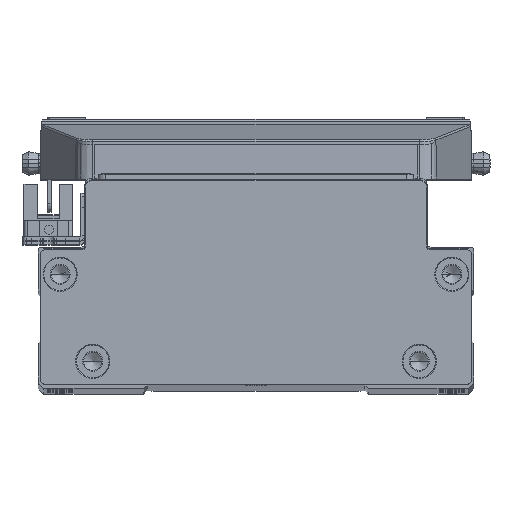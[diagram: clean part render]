
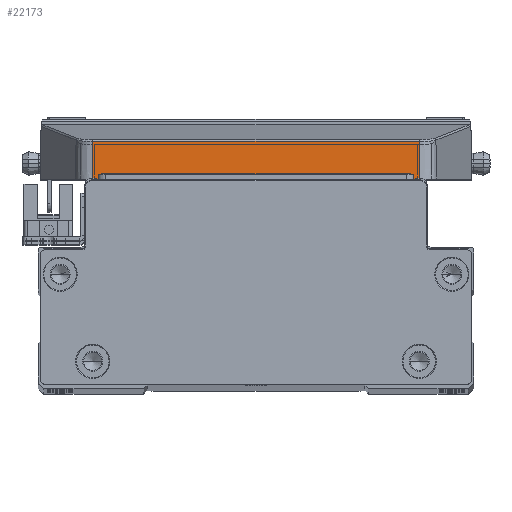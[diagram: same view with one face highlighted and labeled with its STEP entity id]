
A CAD part, top view. The second image highlights one B-rep face of the part: STEP entity #22173.
In plain terms, the highlighted planar face has unit normal (0, 0.018, 1) as drawn and (0, 0.017, -1) by its records, which use the part's own axes.
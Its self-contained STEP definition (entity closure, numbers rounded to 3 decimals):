
#2160 = VECTOR ( 'NONE', #51592, 1000. ) ;
#2859 = CARTESIAN_POINT ( 'NONE',  ( 174.19, 348.838, 552.719 ) ) ;
#4300 = LINE ( 'NONE', #13055, #6832 ) ;
#4524 = VERTEX_POINT ( 'NONE', #28328 ) ;
#6278 = CARTESIAN_POINT ( 'NONE',  ( 191.19, 350.338, 552.745 ) ) ;
#6832 = VECTOR ( 'NONE', #21248, 1000. ) ;
#8236 = CARTESIAN_POINT ( 'NONE',  ( 188.745, 348.838, 552.719 ) ) ;
#9868 = DIRECTION ( 'NONE',  ( 0., -1., -0.017 ) ) ;
#10419 = ORIENTED_EDGE ( 'NONE', *, *, #34576, .F. ) ;
#11382 = LINE ( 'NONE', #17095, #12694 ) ;
#12694 = VECTOR ( 'NONE', #29239, 1000. ) ;
#13024 = CARTESIAN_POINT ( 'NONE',  ( 174.19, 348.838, 552.719 ) ) ;
#13055 = CARTESIAN_POINT ( 'NONE',  ( 278.636, -499000., -8163.448 ) ) ;
#13886 = VECTOR ( 'NONE', #52079, 1000. ) ;
#14298 = VERTEX_POINT ( 'NONE', #52311 ) ;
#14810 = EDGE_CURVE ( 'NONE', #50996, #22537, #35568, .T. ) ;
#16447 = LINE ( 'NONE', #22551, #33650 ) ;
#17095 = CARTESIAN_POINT ( 'NONE',  ( 277.241, 348.838, 552.719 ) ) ;
#17766 = VECTOR ( 'NONE', #26533, 1000. ) ;
#19775 = CARTESIAN_POINT ( 'NONE',  ( 278.636, 348.838, 552.719 ) ) ;
#20100 = LINE ( 'NONE', #23089, #2160 ) ;
#20153 = DIRECTION ( 'NONE',  ( 0., 0.017, -1. ) ) ;
#21248 = DIRECTION ( 'NONE',  ( 0., 1., 0.017 ) ) ;
#22173 = ADVANCED_FACE ( 'NONE', ( #34604 ), #31554, .T. ) ;
#22305 = LINE ( 'NONE', #13024, #48413 ) ;
#22457 = CARTESIAN_POINT ( 'NONE',  ( 276.19, 350.338, 552.745 ) ) ;
#22537 = VERTEX_POINT ( 'NONE', #22791 ) ;
#22551 = CARTESIAN_POINT ( 'NONE',  ( 188.745, -499000., -8163.448 ) ) ;
#22791 = CARTESIAN_POINT ( 'NONE',  ( 191.19, 350.338, 552.745 ) ) ;
#23089 = CARTESIAN_POINT ( 'NONE',  ( 174.19, 359.211, 552.9 ) ) ;
#24766 = EDGE_CURVE ( 'NONE', #28968, #30002, #4300, .T. ) ;
#25516 = DIRECTION ( 'NONE',  ( -1., 0., 0. ) ) ;
#26396 = CARTESIAN_POINT ( 'NONE',  ( 188.745, 359.211, 552.9 ) ) ;
#26533 = DIRECTION ( 'NONE',  ( -0.574, -0.819, -0.014 ) ) ;
#26560 = ORIENTED_EDGE ( 'NONE', *, *, #51889, .T. ) ;
#27667 = CARTESIAN_POINT ( 'NONE',  ( 174.19, 348.838, 552.719 ) ) ;
#27879 = CARTESIAN_POINT ( 'NONE',  ( 174.19, 350.338, 552.745 ) ) ;
#28328 = CARTESIAN_POINT ( 'NONE',  ( 277.241, 348.838, 552.719 ) ) ;
#28968 = VERTEX_POINT ( 'NONE', #19775 ) ;
#29239 = DIRECTION ( 'NONE',  ( -0.574, 0.819, 0.014 ) ) ;
#29551 = ORIENTED_EDGE ( 'NONE', *, *, #41048, .F. ) ;
#30002 = VERTEX_POINT ( 'NONE', #36044 ) ;
#30835 = LINE ( 'NONE', #2859, #39756 ) ;
#31554 = PLANE ( 'NONE',  #34708 ) ;
#31734 = DIRECTION ( 'NONE',  ( 0., 1., 0.017 ) ) ;
#33650 = VECTOR ( 'NONE', #9868, 1000. ) ;
#34285 = ORIENTED_EDGE ( 'NONE', *, *, #14810, .T. ) ;
#34504 = EDGE_LOOP ( 'NONE', ( #51571, #34871, #10419, #29551, #42223, #26560, #44598, #34285 ) ) ;
#34576 = EDGE_CURVE ( 'NONE', #38739, #47043, #16447, .T. ) ;
#34604 = FACE_OUTER_BOUND ( 'NONE', #34504, .T. ) ;
#34708 = AXIS2_PLACEMENT_3D ( 'NONE', #27667, #20153, #31734 ) ;
#34871 = ORIENTED_EDGE ( 'NONE', *, *, #42243, .T. ) ;
#35568 = LINE ( 'NONE', #27879, #13886 ) ;
#36044 = CARTESIAN_POINT ( 'NONE',  ( 278.636, 359.211, 552.9 ) ) ;
#38669 = EDGE_CURVE ( 'NONE', #4524, #50996, #11382, .T. ) ;
#38739 = VERTEX_POINT ( 'NONE', #26396 ) ;
#39756 = VECTOR ( 'NONE', #51243, 1000. ) ;
#41048 = EDGE_CURVE ( 'NONE', #30002, #38739, #20100, .T. ) ;
#42223 = ORIENTED_EDGE ( 'NONE', *, *, #24766, .F. ) ;
#42243 = EDGE_CURVE ( 'NONE', #14298, #47043, #30835, .T. ) ;
#44538 = LINE ( 'NONE', #6278, #17766 ) ;
#44598 = ORIENTED_EDGE ( 'NONE', *, *, #38669, .T. ) ;
#47043 = VERTEX_POINT ( 'NONE', #8236 ) ;
#48413 = VECTOR ( 'NONE', #25516, 1000. ) ;
#50996 = VERTEX_POINT ( 'NONE', #22457 ) ;
#51243 = DIRECTION ( 'NONE',  ( -1., 0., 0. ) ) ;
#51571 = ORIENTED_EDGE ( 'NONE', *, *, #52594, .T. ) ;
#51592 = DIRECTION ( 'NONE',  ( -1., 0., 0. ) ) ;
#51889 = EDGE_CURVE ( 'NONE', #28968, #4524, #22305, .T. ) ;
#52079 = DIRECTION ( 'NONE',  ( -1., 0., 0. ) ) ;
#52311 = CARTESIAN_POINT ( 'NONE',  ( 190.14, 348.838, 552.719 ) ) ;
#52594 = EDGE_CURVE ( 'NONE', #22537, #14298, #44538, .T. ) ;
